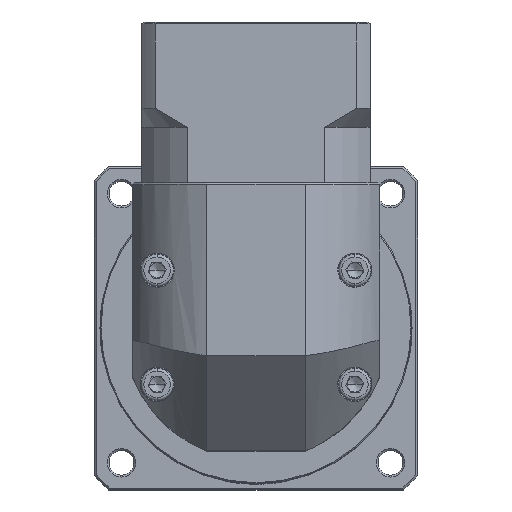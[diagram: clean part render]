
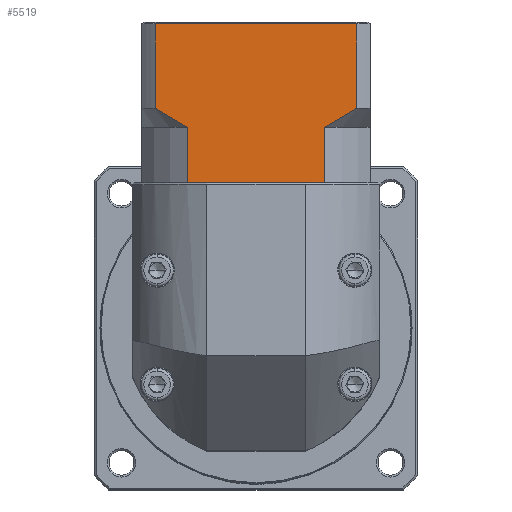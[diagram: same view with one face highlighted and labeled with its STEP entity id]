
A CAD part, top view. The second image highlights one B-rep face of the part: STEP entity #5519.
In plain terms, the highlighted planar face has unit normal (0, 0, 1).
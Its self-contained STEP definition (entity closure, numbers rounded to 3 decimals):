
#1232 = CARTESIAN_POINT ( 'NONE',  ( -79.824, 105.563, 41.435 ) ) ;
#3171 = CARTESIAN_POINT ( 'NONE',  ( -31.796, 120.063, 41.435 ) ) ;
#3470 = CARTESIAN_POINT ( 'NONE',  ( -67.852, 120.063, 41.435 ) ) ;
#4085 = CARTESIAN_POINT ( 'NONE',  ( -31.796, 105.563, 41.435 ) ) ;
#4322 = CARTESIAN_POINT ( 'NONE',  ( -69.304, 120.811, 41.435 ) ) ;
#4778 = CARTESIAN_POINT ( 'NONE',  ( -76.282, 125.063, 41.435 ) ) ;
#5519 = ADVANCED_FACE ( 'NONE', ( #50606 ), #68736, .F. ) ;
#6093 = DIRECTION ( 'NONE',  ( 0., 1., 0. ) ) ;
#6799 = EDGE_CURVE ( 'NONE', #86615, #20561, #112237, .T. ) ;
#10130 = CARTESIAN_POINT ( 'NONE',  ( -31.796, 120.063, 41.435 ) ) ;
#11907 = DIRECTION ( 'NONE',  ( 0., -1., 0. ) ) ;
#12597 = CARTESIAN_POINT ( 'NONE',  ( -24.729, 124.162, 41.435 ) ) ;
#16953 = DIRECTION ( 'NONE',  ( -1., 0., 0. ) ) ;
#18612 = ORIENTED_EDGE ( 'NONE', *, *, #6799, .T. ) ;
#19287 = DIRECTION ( 'NONE',  ( 1., 0., 0. ) ) ;
#20242 = EDGE_CURVE ( 'NONE', #79594, #32896, #44454, .T. ) ;
#20304 = ORIENTED_EDGE ( 'NONE', *, *, #20242, .T. ) ;
#20561 = VERTEX_POINT ( 'NONE', #33596 ) ;
#22975 = CARTESIAN_POINT ( 'NONE',  ( -30.34, 120.813, 41.435 ) ) ;
#32536 = ORIENTED_EDGE ( 'NONE', *, *, #95792, .T. ) ;
#32896 = VERTEX_POINT ( 'NONE', #96755 ) ;
#33596 = CARTESIAN_POINT ( 'NONE',  ( -67.852, 120.063, 41.435 ) ) ;
#35279 = DIRECTION ( 'NONE',  ( 0., -1., 0. ) ) ;
#36902 = CARTESIAN_POINT ( 'NONE',  ( -79.824, 105.563, 41.435 ) ) ;
#37103 = LINE ( 'NONE', #55598, #74107 ) ;
#41008 = VERTEX_POINT ( 'NONE', #109681 ) ;
#41624 = AXIS2_PLACEMENT_3D ( 'NONE', #120055, #131224, #6093 ) ;
#42320 = DIRECTION ( 'NONE',  ( 1., 0., 0. ) ) ;
#43223 = VECTOR ( 'NONE', #110354, 1000. ) ;
#44454 = LINE ( 'NONE', #36902, #86086 ) ;
#44652 = CARTESIAN_POINT ( 'NONE',  ( -28.915, 121.614, 41.435 ) ) ;
#45186 = LINE ( 'NONE', #10130, #119312 ) ;
#46941 = CARTESIAN_POINT ( 'NONE',  ( -76.282, 120.063, 41.435 ) ) ;
#49190 = ORIENTED_EDGE ( 'NONE', *, *, #83111, .F. ) ;
#49308 = VECTOR ( 'NONE', #42320, 1000. ) ;
#49860 = CARTESIAN_POINT ( 'NONE',  ( -76.282, 147.263, 41.435 ) ) ;
#50216 = ORIENTED_EDGE ( 'NONE', *, *, #106690, .T. ) ;
#50606 = FACE_OUTER_BOUND ( 'NONE', #131250, .T. ) ;
#53065 = CARTESIAN_POINT ( 'NONE',  ( -73.543, 123.29, 41.435 ) ) ;
#54581 = CARTESIAN_POINT ( 'NONE',  ( -23.367, 125.063, 41.435 ) ) ;
#55598 = CARTESIAN_POINT ( 'NONE',  ( -23.367, 120.063, 41.435 ) ) ;
#57126 = VERTEX_POINT ( 'NONE', #4085 ) ;
#59451 = CARTESIAN_POINT ( 'NONE',  ( -79.824, 105.563, 41.435 ) ) ;
#63432 = LINE ( 'NONE', #70074, #127936 ) ;
#64367 = DIRECTION ( 'NONE',  ( 0., 1., 0. ) ) ;
#65210 = B_SPLINE_CURVE_WITH_KNOTS ( 'NONE', 3,
 ( #3171, #22975, #44652, #105864, #12597, #54581 ),
 .UNSPECIFIED., .F., .F.,
 ( 4, 2, 4 ),
 ( 0.1, 0.104, 0.109 ),
 .UNSPECIFIED. ) ;
#65822 = VERTEX_POINT ( 'NONE', #87140 ) ;
#66809 = EDGE_CURVE ( 'NONE', #101573, #57126, #45186, .T. ) ;
#67010 = CARTESIAN_POINT ( 'NONE',  ( -70.735, 121.615, 41.435 ) ) ;
#68235 = EDGE_CURVE ( 'NONE', #101573, #41008, #65210, .T. ) ;
#68736 = PLANE ( 'NONE',  #41624 ) ;
#69112 = VERTEX_POINT ( 'NONE', #49860 ) ;
#70074 = CARTESIAN_POINT ( 'NONE',  ( -79.824, 147.263, 41.435 ) ) ;
#70394 = CARTESIAN_POINT ( 'NONE',  ( -67.852, 105.563, 41.435 ) ) ;
#74107 = VECTOR ( 'NONE', #35279, 1000. ) ;
#79594 = VERTEX_POINT ( 'NONE', #85303 ) ;
#83111 = EDGE_CURVE ( 'NONE', #65822, #41008, #37103, .T. ) ;
#85303 = CARTESIAN_POINT ( 'NONE',  ( -66.861, 105.563, 41.435 ) ) ;
#86086 = VECTOR ( 'NONE', #128675, 1000. ) ;
#86615 = VERTEX_POINT ( 'NONE', #89709 ) ;
#87140 = CARTESIAN_POINT ( 'NONE',  ( -23.367, 147.263, 41.435 ) ) ;
#89506 = LINE ( 'NONE', #1232, #49308 ) ;
#89662 = ORIENTED_EDGE ( 'NONE', *, *, #106336, .F. ) ;
#89709 = CARTESIAN_POINT ( 'NONE',  ( -76.282, 125.063, 41.435 ) ) ;
#95792 = EDGE_CURVE ( 'NONE', #32896, #57126, #124844, .T. ) ;
#95856 = ORIENTED_EDGE ( 'NONE', *, *, #125474, .T. ) ;
#96755 = CARTESIAN_POINT ( 'NONE',  ( -32.787, 105.563, 41.435 ) ) ;
#97563 = VECTOR ( 'NONE', #19287, 1000. ) ;
#98128 = ORIENTED_EDGE ( 'NONE', *, *, #68235, .T. ) ;
#98924 = LINE ( 'NONE', #3470, #119859 ) ;
#101573 = VERTEX_POINT ( 'NONE', #125883 ) ;
#104825 = ORIENTED_EDGE ( 'NONE', *, *, #125297, .F. ) ;
#105864 = CARTESIAN_POINT ( 'NONE',  ( -26.109, 123.288, 41.435 ) ) ;
#106336 = EDGE_CURVE ( 'NONE', #86615, #69112, #110769, .T. ) ;
#106690 = EDGE_CURVE ( 'NONE', #128504, #79594, #89506, .T. ) ;
#109681 = CARTESIAN_POINT ( 'NONE',  ( -23.367, 125.063, 41.435 ) ) ;
#110354 = DIRECTION ( 'NONE',  ( 0., 1., 0. ) ) ;
#110769 = LINE ( 'NONE', #46941, #43223 ) ;
#112237 = B_SPLINE_CURVE_WITH_KNOTS ( 'NONE', 3,
 ( #4778, #127684, #53065, #67010, #4322, #117416 ),
 .UNSPECIFIED., .F., .F.,
 ( 4, 2, 4 ),
 ( 0.052, 0.057, 0.062 ),
 .UNSPECIFIED. ) ;
#117416 = CARTESIAN_POINT ( 'NONE',  ( -67.852, 120.063, 41.435 ) ) ;
#118767 = ORIENTED_EDGE ( 'NONE', *, *, #66809, .F. ) ;
#119312 = VECTOR ( 'NONE', #11907, 1000. ) ;
#119859 = VECTOR ( 'NONE', #64367, 1000. ) ;
#120055 = CARTESIAN_POINT ( 'NONE',  ( -79.824, 147.763, 41.435 ) ) ;
#124844 = LINE ( 'NONE', #59451, #97563 ) ;
#125297 = EDGE_CURVE ( 'NONE', #128504, #20561, #98924, .T. ) ;
#125474 = EDGE_CURVE ( 'NONE', #65822, #69112, #63432, .T. ) ;
#125883 = CARTESIAN_POINT ( 'NONE',  ( -31.796, 120.063, 41.435 ) ) ;
#127684 = CARTESIAN_POINT ( 'NONE',  ( -74.922, 124.164, 41.435 ) ) ;
#127936 = VECTOR ( 'NONE', #16953, 1000. ) ;
#128504 = VERTEX_POINT ( 'NONE', #70394 ) ;
#128675 = DIRECTION ( 'NONE',  ( 1., 0., 0. ) ) ;
#131224 = DIRECTION ( 'NONE',  ( 0., 0., -1. ) ) ;
#131250 = EDGE_LOOP ( 'NONE', ( #49190, #95856, #89662, #18612, #104825, #50216, #20304, #32536, #118767, #98128 ) ) ;
